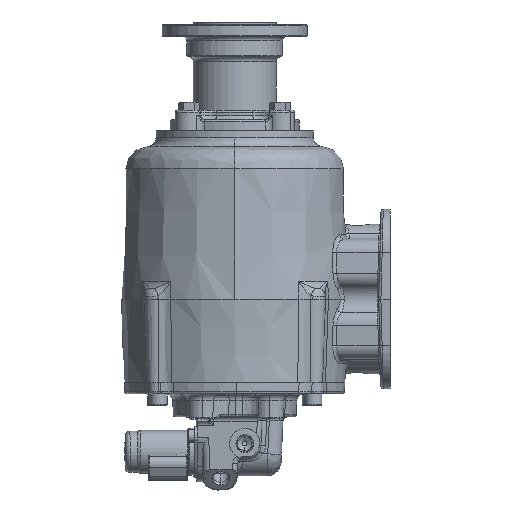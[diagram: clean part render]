
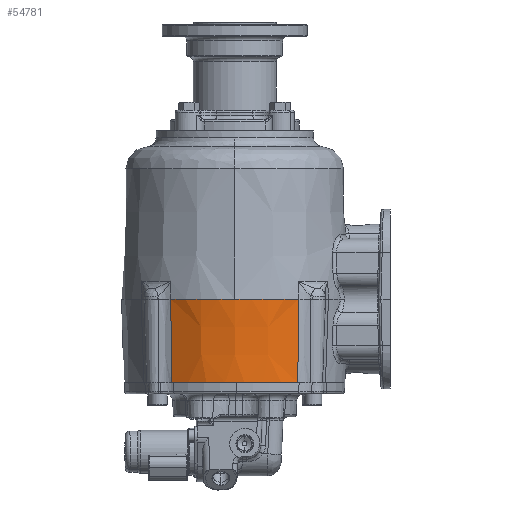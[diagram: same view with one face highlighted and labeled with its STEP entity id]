
A CAD part, left-side view. The second image highlights one B-rep face of the part: STEP entity #54781.
In plain terms, the highlighted conical face has half-angle 2 degrees and reference radius 78.232 mm.
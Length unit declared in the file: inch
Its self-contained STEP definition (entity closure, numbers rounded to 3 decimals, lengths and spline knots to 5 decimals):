
#72 = CARTESIAN_POINT ( 'NONE',  ( -3.79389, 5.06598, 0. ) ) ;
#5612 = DIRECTION ( 'NONE',  ( 1., 0., 0. ) ) ;
#7055 = DIRECTION ( 'NONE',  ( 0., 0., 1. ) ) ;
#13544 = CIRCLE ( 'NONE', #44362, 3.08 ) ;
#15200 = DIRECTION ( 'NONE',  ( 1., 0., 0. ) ) ;
#15591 = CARTESIAN_POINT ( 'NONE',  ( -3.71437, 5.04203, -2.2645 ) ) ;
#16441 = CARTESIAN_POINT ( 'NONE',  ( -3.79389, 1.59322, 0. ) ) ;
#21195 = AXIS2_PLACEMENT_3D ( 'NONE', #39815, #93305, #15200 ) ;
#21877 = EDGE_LOOP ( 'NONE', ( #98360, #113946, #88313, #147030, #86542 ) ) ;
#34110 = EDGE_CURVE ( 'NONE', #159527, #172699, #96825, .T. ) ;
#34915 = CARTESIAN_POINT ( 'NONE',  ( -3.74025, 5.04967, -1.53104 ) ) ;
#39047 = CONICAL_SURFACE ( 'NONE', #159563, 3.08, 0.035 ) ;
#39815 = CARTESIAN_POINT ( 'NONE',  ( -1.25, 3.3296, -2.2645 ) ) ;
#44362 = AXIS2_PLACEMENT_3D ( 'NONE', #115817, #7055, #155300 ) ;
#46376 = B_SPLINE_CURVE_WITH_KNOTS ( 'NONE', 3,
 ( #126230, #151677, #34915, #86710 ),
 .UNSPECIFIED., .F., .F.,
 ( 4, 4 ),
 ( 0., 1. ),
 .UNSPECIFIED. ) ;
#50909 = FACE_OUTER_BOUND ( 'NONE', #21877, .T. ) ;
#54781 = ADVANCED_FACE ( 'NONE', ( #50909 ), #39047, .T. ) ;
#55846 = VERTEX_POINT ( 'NONE', #66940 ) ;
#57672 = CARTESIAN_POINT ( 'NONE',  ( -3.74025, 1.60953, -1.53104 ) ) ;
#58099 = EDGE_CURVE ( 'NONE', #159527, #55846, #171026, .T. ) ;
#62598 = DIRECTION ( 'NONE',  ( 0., 0., 1. ) ) ;
#63487 = EDGE_CURVE ( 'NONE', #145808, #172699, #46376, .T. ) ;
#66032 = VERTEX_POINT ( 'NONE', #171316 ) ;
#66940 = CARTESIAN_POINT ( 'NONE',  ( -3.79389, 1.59322, 0. ) ) ;
#69747 = CARTESIAN_POINT ( 'NONE',  ( -3.71437, 1.61717, -2.2645 ) ) ;
#77228 = DIRECTION ( 'NONE',  ( 1., 0., 0. ) ) ;
#85740 = AXIS2_PLACEMENT_3D ( 'NONE', #86312, #62598, #5612 ) ;
#86312 = CARTESIAN_POINT ( 'NONE',  ( -1.25, 3.3296, 0. ) ) ;
#86542 = ORIENTED_EDGE ( 'NONE', *, *, #136325, .F. ) ;
#86710 = CARTESIAN_POINT ( 'NONE',  ( -3.71437, 5.04203, -2.2645 ) ) ;
#88313 = ORIENTED_EDGE ( 'NONE', *, *, #34110, .F. ) ;
#88663 = CARTESIAN_POINT ( 'NONE',  ( -1.25, 3.3296, 0. ) ) ;
#90170 = EDGE_CURVE ( 'NONE', #145808, #66032, #13544, .T. ) ;
#93305 = DIRECTION ( 'NONE',  ( 0., 0., -1. ) ) ;
#96825 = CIRCLE ( 'NONE', #21195, 3.00092 ) ;
#98360 = ORIENTED_EDGE ( 'NONE', *, *, #90170, .F. ) ;
#113946 = ORIENTED_EDGE ( 'NONE', *, *, #63487, .T. ) ;
#115817 = CARTESIAN_POINT ( 'NONE',  ( -1.25, 3.3296, 0. ) ) ;
#119294 = CIRCLE ( 'NONE', #85740, 3.08 ) ;
#126230 = CARTESIAN_POINT ( 'NONE',  ( -3.79389, 5.06598, 0. ) ) ;
#136325 = EDGE_CURVE ( 'NONE', #66032, #55846, #119294, .T. ) ;
#136648 = CARTESIAN_POINT ( 'NONE',  ( -3.76676, 1.60154, -0.77621 ) ) ;
#145808 = VERTEX_POINT ( 'NONE', #72 ) ;
#147030 = ORIENTED_EDGE ( 'NONE', *, *, #58099, .T. ) ;
#148087 = CARTESIAN_POINT ( 'NONE',  ( -3.71437, 1.61717, -2.2645 ) ) ;
#151677 = CARTESIAN_POINT ( 'NONE',  ( -3.76676, 5.05766, -0.77621 ) ) ;
#155300 = DIRECTION ( 'NONE',  ( 1., 0., 0. ) ) ;
#159527 = VERTEX_POINT ( 'NONE', #69747 ) ;
#159563 = AXIS2_PLACEMENT_3D ( 'NONE', #88663, #170235, #77228 ) ;
#170235 = DIRECTION ( 'NONE',  ( 0., 0., 1. ) ) ;
#171026 = B_SPLINE_CURVE_WITH_KNOTS ( 'NONE', 3,
 ( #148087, #57672, #136648, #16441 ),
 .UNSPECIFIED., .F., .F.,
 ( 4, 4 ),
 ( 0., 1. ),
 .UNSPECIFIED. ) ;
#171316 = CARTESIAN_POINT ( 'NONE',  ( -4.33, 3.3296, 0. ) ) ;
#172699 = VERTEX_POINT ( 'NONE', #15591 ) ;
